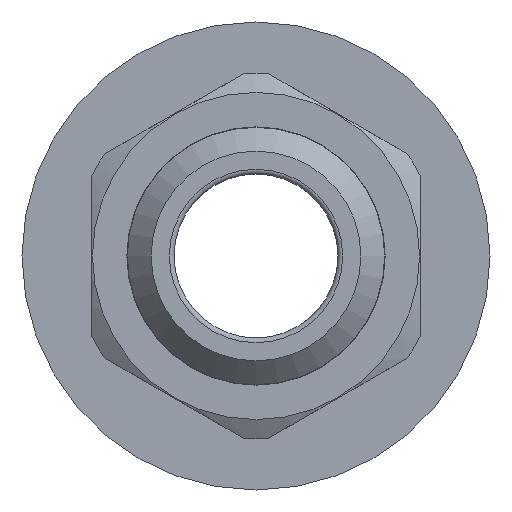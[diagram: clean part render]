
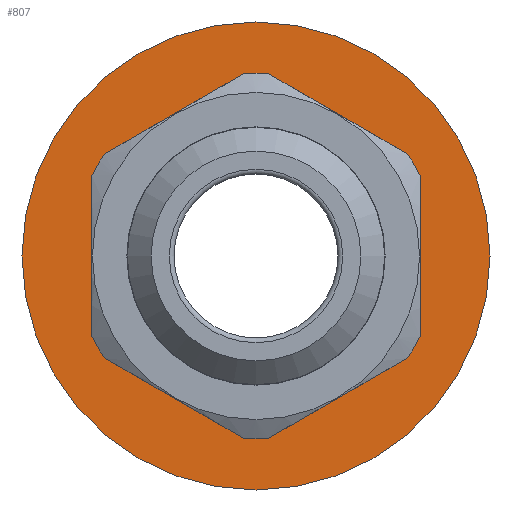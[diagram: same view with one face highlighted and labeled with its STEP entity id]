
A CAD part, front view. The second image highlights one B-rep face of the part: STEP entity #807.
In plain terms, the highlighted planar face has unit normal (0, -1, 0).
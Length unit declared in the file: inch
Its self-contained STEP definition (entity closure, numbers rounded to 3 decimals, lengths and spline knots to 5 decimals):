
#137=FACE_BOUND('',#236,.T.);
#155=PLANE('',#913);
#186=FACE_OUTER_BOUND('',#235,.T.);
#235=EDGE_LOOP('',(#669,#670));
#236=EDGE_LOOP('',(#671,#672));
#297=CIRCLE('',#914,0.49);
#298=CIRCLE('',#915,0.49);
#299=CIRCLE('',#916,0.2925);
#300=CIRCLE('',#917,0.2925);
#383=VERTEX_POINT('',#1418);
#384=VERTEX_POINT('',#1419);
#385=VERTEX_POINT('',#1422);
#386=VERTEX_POINT('',#1423);
#488=EDGE_CURVE('',#383,#384,#297,.T.);
#489=EDGE_CURVE('',#384,#383,#298,.T.);
#490=EDGE_CURVE('',#385,#386,#299,.T.);
#491=EDGE_CURVE('',#386,#385,#300,.T.);
#669=ORIENTED_EDGE('',*,*,#488,.T.);
#670=ORIENTED_EDGE('',*,*,#489,.T.);
#671=ORIENTED_EDGE('',*,*,#490,.F.);
#672=ORIENTED_EDGE('',*,*,#491,.F.);
#807=ADVANCED_FACE('',(#186,#137),#155,.T.);
#913=AXIS2_PLACEMENT_3D('',#1417,#1114,#1115);
#914=AXIS2_PLACEMENT_3D('',#1420,#1116,#1117);
#915=AXIS2_PLACEMENT_3D('',#1421,#1118,#1119);
#916=AXIS2_PLACEMENT_3D('',#1424,#1120,#1121);
#917=AXIS2_PLACEMENT_3D('',#1425,#1122,#1123);
#1114=DIRECTION('center_axis',(0.,-1.,0.));
#1115=DIRECTION('ref_axis',(0.,0.,-1.));
#1116=DIRECTION('center_axis',(0.,-1.,0.));
#1117=DIRECTION('ref_axis',(1.,0.,0.));
#1118=DIRECTION('center_axis',(0.,-1.,0.));
#1119=DIRECTION('ref_axis',(1.,0.,0.));
#1120=DIRECTION('center_axis',(0.,-1.,0.));
#1121=DIRECTION('ref_axis',(1.,0.,0.));
#1122=DIRECTION('center_axis',(0.,-1.,0.));
#1123=DIRECTION('ref_axis',(1.,0.,0.));
#1417=CARTESIAN_POINT('Origin',(0.,0.,-0.2925));
#1418=CARTESIAN_POINT('',(0.,0.,-0.49));
#1419=CARTESIAN_POINT('',(0.,0.,0.49));
#1420=CARTESIAN_POINT('Origin',(0.,0.,0.));
#1421=CARTESIAN_POINT('Origin',(0.,0.,0.));
#1422=CARTESIAN_POINT('',(0.,0.,-0.2925));
#1423=CARTESIAN_POINT('',(0.,0.,0.2925));
#1424=CARTESIAN_POINT('Origin',(0.,0.,0.));
#1425=CARTESIAN_POINT('Origin',(0.,0.,0.));
